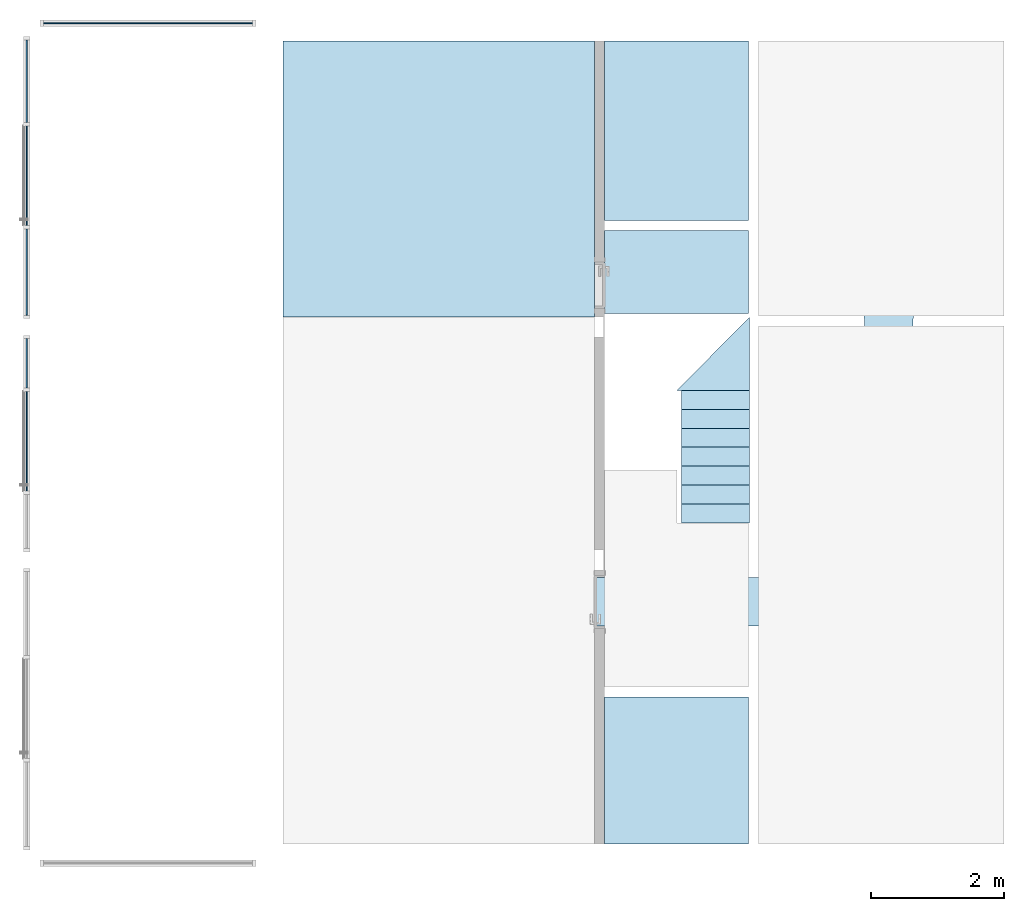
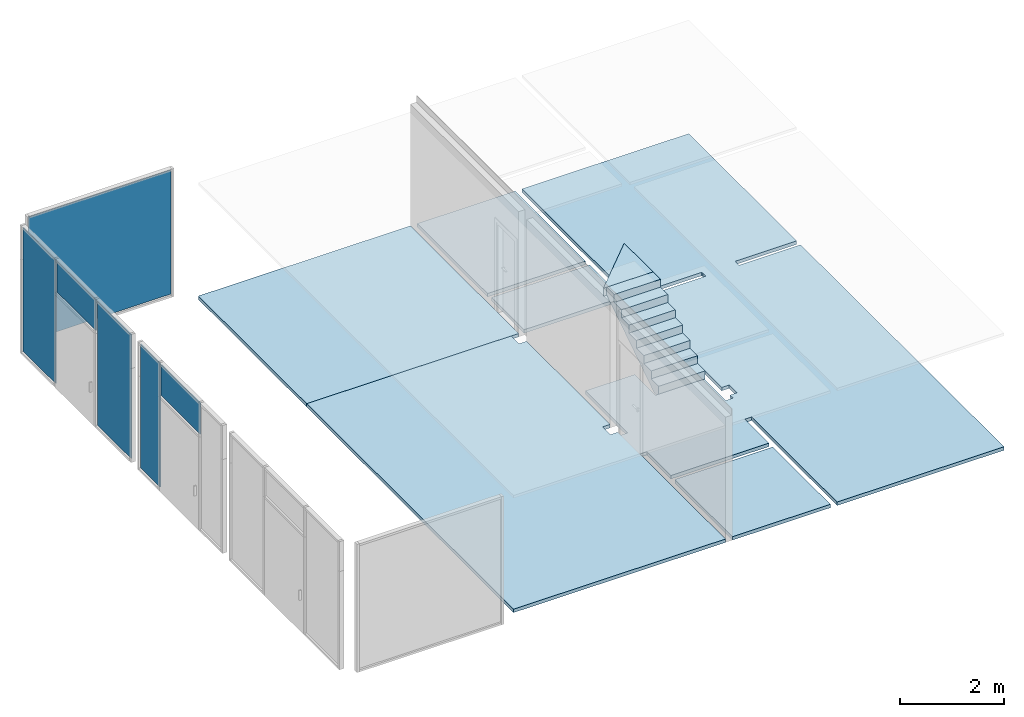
# One storey, part 2 of 4: 7 slabs, 6 plates, 3 elements without a shape of their own.
"""IFC2X3 building model written with IfcOpenShell, lengths in metres."""

from ifc_helpers import new_model, entity, si_unit, converted_unit, derived_unit, direction, frame, frame_2d, origin, origin_2d_with_axis, place, context, subcontext, project, spatial, polyline, rectangle, outline, extrude, source, transform, mapped, material, layer, layer_set, layer_usage, type_object, type_shapes, element, aggregate, save


model = new_model("IFC2X3")

# Units and contexts
model_context = context("Model", 3, precision=1e-05, world=origin(), true_north=direction((6.12303176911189e-17, 1.0)))
context_of_model = context(None, 3, precision=1e-05, world=origin(), true_north=direction((6.12303176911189e-17, 1.0)))
body_context = subcontext(model_context, "Body", "Model", "MODEL_VIEW")
ifc_project = project(units=[si_unit("LENGTHUNIT", "METRE"), si_unit("AREAUNIT", "SQUARE_METRE"), si_unit("VOLUMEUNIT", "CUBIC_METRE"), converted_unit("PLANEANGLEUNIT", "DEGREE", entity("IfcRatioMeasure", 0.0174532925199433), si_unit("PLANEANGLEUNIT", "RADIAN"), dimensions=[0, 0, 0, 0, 0, 0, 0]), si_unit("MASSUNIT", "GRAM", prefix="KILO"), si_unit("TIMEUNIT", "SECOND"), si_unit("FREQUENCYUNIT", "HERTZ"), si_unit("THERMODYNAMICTEMPERATUREUNIT", "DEGREE_CELSIUS"), derived_unit("THERMALTRANSMITTANCEUNIT", [(si_unit("MASSUNIT", "GRAM", prefix="KILO"), 1), (si_unit("THERMODYNAMICTEMPERATUREUNIT", "KELVIN"), -1), (si_unit("TIMEUNIT", "SECOND"), -3)]), derived_unit("VOLUMETRICFLOWRATEUNIT", [(si_unit("LENGTHUNIT", "METRE"), 3), (si_unit("TIMEUNIT", "SECOND"), -1)]), si_unit("ELECTRICCURRENTUNIT", "AMPERE"), si_unit("ELECTRICVOLTAGEUNIT", "VOLT"), si_unit("POWERUNIT", "WATT"), si_unit("FORCEUNIT", "NEWTON", prefix="KILO"), si_unit("ILLUMINANCEUNIT", "LUX"), si_unit("LUMINOUSFLUXUNIT", "LUMEN"), si_unit("LUMINOUSINTENSITYUNIT", "CANDELA"), si_unit("PRESSUREUNIT", "PASCAL")], contexts=[model_context, context_of_model])

# Site, building, storey
site_placement = place(None, origin())
site = spatial("IfcSite", under=ifc_project, at=site_placement, Name="Default", CompositionType="ELEMENT")
building_placement = place(site_placement, origin())
building = spatial("IfcBuilding", under=site, at=building_placement, CompositionType="ELEMENT")
storey_placement = place(building_placement, frame((0.0, 0.0, 0.2)))
storey = spatial("IfcBuildingStorey", under=building, at=storey_placement, Name="01.AR.PLANTA BAJA ACAB.SUELO", CompositionType="ELEMENT", Elevation=0.2)

# Curtain wall, plate
curtain_wall_type = type_object("IfcCurtainWallType", Name="Muro cortina:Muro cortina - simple", PredefinedType="NOTDEFINED")
curtain_wall_1_placement = place(storey_placement, frame((0.0, 0.0, -0.2)))
curtain_wall_1 = element("IfcCurtainWall", 1, at=curtain_wall_1_placement, inside=storey, type_object=curtain_wall_type, Name="Muro cortina:Muro cortina - simple", ObjectType="Muro cortina:Muro cortina - simple")
ifc_material_1 = material(Name="Cristal")
plate_type_1 = type_object("IfcPlateType", Name="Acristalado", PredefinedType="CURTAIN_PANEL", material=ifc_material_1)
shared_shape_1 = source(origin(), body_context, "Body", "SweptSolid", [
    extrude(rectangle(XDim=0.02, YDim=3.14999999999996, at=origin_2d_with_axis()), frame((0.0, 0.0, 0.0), z_axis=(0.0, 0.0, 1.0), x_axis=(0.0, 1.0, 0.0)), (0.0, 0.0, 1.0), 2.9),
])
type_shapes(plate_type_1, [shared_shape_1])
plate_1_placement = place(curtain_wall_1_placement, frame((2.34999999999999, 13.175, 0.25)))
plate_1 = element("IfcPlate", 2, at=plate_1_placement, type_object=plate_type_1, material=ifc_material_1, Name="Panel de sistema:Acristalado", ObjectType="Acristalado", context=body_context, shape_type="MappedRepresentation", body=[
    mapped(shared_shape_1, transform((0.0, 0.0, 0.0), scale=1.0)),
])
aggregate(curtain_wall_1, [plate_1])

# Curtain wall, plates
curtain_wall_2_placement = place(storey_placement, frame((0.0, 0.0, -0.2)))
curtain_wall_2 = element("IfcCurtainWall", 3, at=curtain_wall_2_placement, inside=storey, type_object=curtain_wall_type, Name="Muro cortina:Muro cortina - simple", ObjectType="Muro cortina:Muro cortina - simple")
plate_type_2 = type_object("IfcPlateType", Name="Acristalado", PredefinedType="CURTAIN_PANEL", material=ifc_material_1)
shared_shape_2 = source(origin(), body_context, "Body", "SweptSolid", [
    extrude(rectangle(XDim=2.9, YDim=0.745000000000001, at=frame_2d((-0.233333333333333, 0.0), x_axis=(1.0, 0.0))), frame((0.0, -0.00999999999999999, 1.68333333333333), z_axis=(0.0, 1.0, 0.0), x_axis=(0.0, 0.0, 1.0)), (0.0, 0.0, 1.0), 0.02),
])
type_shapes(plate_type_2, [shared_shape_2])
plate_2_placement = place(curtain_wall_2_placement, frame((0.525000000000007, 8.05250000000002, 0.25), z_axis=(0.0, 0.0, 1.0), x_axis=(0.0, 1.0, 0.0)))
plate_2 = element("IfcPlate", 4, at=plate_2_placement, type_object=plate_type_2, material=ifc_material_1, Name="Panel de sistema:Acristalado", ObjectType="Acristalado", context=body_context, shape_type="MappedRepresentation", body=[
    mapped(shared_shape_2, transform((0.0, 0.0, 0.0), scale=1.0)),
])
plate_type_3 = type_object("IfcPlateType", Name="Acristalado", PredefinedType="CURTAIN_PANEL", material=ifc_material_1)
shared_shape_3 = source(origin(), body_context, "Body", "SweptSolid", [
    extrude(rectangle(XDim=0.02, YDim=1.5, at=origin_2d_with_axis()), frame((0.0, 0.0, 0.0), z_axis=(0.0, 0.0, 1.0), x_axis=(0.0, 1.0, 0.0)), (0.0, 0.0, 1.0), 0.725),
])
type_shapes(plate_type_3, [shared_shape_3])
plate_3_placement = place(curtain_wall_2_placement, frame((0.525000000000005, 6.88000000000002, 2.425), z_axis=(0.0, 0.0, 1.0), x_axis=(0.0, 1.0, 0.0)))
plate_3 = element("IfcPlate", 5, at=plate_3_placement, type_object=plate_type_3, material=ifc_material_1, Name="Panel de sistema:Acristalado", ObjectType="Acristalado", context=body_context, shape_type="MappedRepresentation", body=[
    mapped(shared_shape_3, transform((0.0, 0.0, 0.0), scale=1.0)),
])
aggregate(curtain_wall_2, [plate_2, plate_3])

curtain_wall_3_placement = place(storey_placement, frame((0.0, 0.0, -0.2)))
curtain_wall_3 = element("IfcCurtainWall", 6, at=curtain_wall_3_placement, inside=storey, type_object=curtain_wall_type, Name="Muro cortina:Muro cortina - simple", ObjectType="Muro cortina:Muro cortina - simple")
plate_4_placement = place(curtain_wall_3_placement, frame((0.525000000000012, 10.88, 2.425), z_axis=(0.0, 0.0, 1.0), x_axis=(0.0, 1.0, 0.0)))
plate_4 = element("IfcPlate", 7, at=plate_4_placement, type_object=plate_type_3, material=ifc_material_1, Name="Panel de sistema:Acristalado", ObjectType="Acristalado", context=body_context, shape_type="MappedRepresentation", body=[
    mapped(shared_shape_3, transform((0.0, 0.0, 0.0), scale=1.0)),
])
plate_type_4 = type_object("IfcPlateType", Name="Acristalado", PredefinedType="CURTAIN_PANEL", material=ifc_material_1)
shared_shape_4 = source(origin(), body_context, "Body", "SweptSolid", [
    extrude(rectangle(XDim=2.9, YDim=1.305, at=frame_2d((-0.233333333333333, 0.0), x_axis=(1.0, 0.0))), frame((0.0, -0.00999999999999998, 1.68333333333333), z_axis=(0.0, 1.0, 0.0), x_axis=(0.0, 0.0, 1.0)), (0.0, 0.0, 1.0), 0.02),
])
type_shapes(plate_type_4, [shared_shape_4])
plate_5_placement = place(curtain_wall_3_placement, frame((0.525000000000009, 9.42750000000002, 0.25), z_axis=(0.0, 0.0, 1.0), x_axis=(0.0, 1.0, 0.0)))
plate_5 = element("IfcPlate", 8, at=plate_5_placement, type_object=plate_type_4, material=ifc_material_1, Name="Panel de sistema:Acristalado", ObjectType="Acristalado", context=body_context, shape_type="MappedRepresentation", body=[
    mapped(shared_shape_4, transform((0.0, 0.0, 0.0), scale=1.0)),
])
plate_type_5 = type_object("IfcPlateType", Name="Acristalado", PredefinedType="CURTAIN_PANEL", material=ifc_material_1)
shared_shape_5 = source(origin(), body_context, "Body", "SweptSolid", [
    extrude(rectangle(XDim=2.9, YDim=1.245, at=frame_2d((-0.233333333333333, 0.0), x_axis=(1.0, 0.0))), frame((0.0, -0.01, 1.68333333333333), z_axis=(0.0, 1.0, 0.0), x_axis=(0.0, 0.0, 1.0)), (0.0, 0.0, 1.0), 0.02),
])
type_shapes(plate_type_5, [shared_shape_5])
plate_6_placement = place(curtain_wall_3_placement, frame((0.525000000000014, 12.3025, 0.25), z_axis=(0.0, 0.0, 1.0), x_axis=(0.0, 1.0, 0.0)))
plate_6 = element("IfcPlate", 9, at=plate_6_placement, type_object=plate_type_5, material=ifc_material_1, Name="Panel de sistema:Acristalado", ObjectType="Acristalado", context=body_context, shape_type="MappedRepresentation", body=[
    mapped(shared_shape_5, transform((0.0, 0.0, 0.0), scale=1.0)),
])
aggregate(curtain_wall_3, [plate_5, plate_6, plate_4])

# Slabs
ifc_material_2 = material(Name="Suelos por defecto")
slab_1_placement = place(storey_placement, origin())
element("IfcSlab", 10, at=slab_1_placement, inside=storey, material=ifc_material_2, Name="Losa escalera:Losa escalera", ObjectType="Losa escalera:Losa escalera", PredefinedType="FLOOR", context=body_context, shape_type="SweptSolid", body=[
    extrude(outline(polyline([(0.444574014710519, -1.04601016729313), (0.629774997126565, -1.04601016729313), (0.629774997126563, -0.761444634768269), (0.444774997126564, -0.76144463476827), (0.444774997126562, -0.476569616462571), (0.259693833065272, -0.476569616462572), (0.259693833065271, -0.191569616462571), (0.074693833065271, -0.191569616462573), (0.0746938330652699, 0.0933054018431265), (-0.11030616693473, 0.0933054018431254), (-0.110306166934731, 0.378180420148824), (-0.295306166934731, 0.378180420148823), (-0.295306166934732, 0.663055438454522), (-0.480306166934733, 0.663055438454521), (-0.480306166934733, 0.94793045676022), (-0.745306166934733, 0.947930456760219), (-0.745306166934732, 0.78624463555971), (0.444574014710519, -1.04601016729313)])), frame((10.39, 6.59805543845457, 0.665306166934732), z_axis=(1.0, 0.0, 0.0), x_axis=(0.0, 0.0, 1.0)), (0.0, 0.0, 1.0), 1.02499999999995),
])
slab_2_placement = place(storey_placement, origin())
element("IfcSlab", 11, at=slab_2_placement, inside=storey, material=ifc_material_2, Name="Losa Escalera 2:Losa Escalera 2", ObjectType="Losa Escalera 2:Losa Escalera 2", PredefinedType="FLOOR", context=body_context, shape_type="SweptSolid", body=[
    extrude(outline(polyline([(-0.368644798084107, -0.36697672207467), (0.737289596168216, -0.36697672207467), (-0.368644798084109, 0.733953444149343), (-0.368644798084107, -0.36697672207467)])), frame((11.0480232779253, 8.01271040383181, 1.10988018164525), z_axis=(0.0, 0.0, 1.0), x_axis=(0.0, 1.0, 0.0)), (0.0, 0.0, 1.0), 0.185200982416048),
])
ifc_material_3 = material(Name="Madera - Parquet")
ifc_layer_1 = layer(ifc_material_3, 0.015)
ifc_material_4 = material(Name="Hormigón")
ifc_layer_2 = layer(ifc_material_4, 0.065)
ifc_layer_set_1 = layer_set([ifc_layer_1, ifc_layer_2], Name="Suelo:Acabado de suelo parquet")
ifc_layer_usage_1 = layer_usage(ifc_layer_set_1, "AXIS3", "POSITIVE", 0.0)
slab_3_placement = place(storey_placement, frame((4.38499999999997, 0.815000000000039, -0.08)))
element("IfcSlab", 12, at=slab_3_placement, inside=storey, material=ifc_layer_usage_1, Name="Suelo:Acabado de suelo parquet", ObjectType="Suelo:Acabado de suelo parquet", PredefinedType="FLOOR", context=body_context, shape_type="SweptSolid", body=[
    extrude(rectangle(XDim=2.17000000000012, YDim=2.20999999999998, at=frame_2d((-0.499999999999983, -4.94075886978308), x_axis=(1.0, 0.0))), frame((5.43000000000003, 6.04575886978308, 0.08), z_axis=(0.0, 0.0, -1.0), x_axis=(-1.0, 0.0, 0.0)), (0.0, 0.0, 1.0), 0.08),
])
slab_4_placement = place(storey_placement, frame((4.38499999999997, 0.815000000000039, -0.08)))
element("IfcSlab", 13, at=slab_4_placement, inside=storey, material=ifc_layer_usage_1, Name="Suelo:Acabado de suelo parquet:2", ObjectType="Suelo:Acabado de suelo parquet", PredefinedType="FLOOR", context=body_context, shape_type="SweptSolid", body=[
    extrude(outline(polyline([(0.585000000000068, -3.68575886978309), (0.585000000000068, -2.76575886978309), (0.735000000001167, -2.76575886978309), (0.735000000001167, -6.04575886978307), (5.43000000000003, -6.04575886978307), (5.43000000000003, 1.8892411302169), (0.900000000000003, 1.8892411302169), (0.900000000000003, 1.5892411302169), (0.735000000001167, 1.5892411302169), (0.735000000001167, -1.62069778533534), (0.900000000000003, -1.62069778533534), (0.900000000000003, -1.92069778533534), (0.73500000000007, -1.92069778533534), (0.73500000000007, -2.03575886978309), (0.585000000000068, -2.03575886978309), (0.585000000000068, -0.410758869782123), (-0.505000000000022, -0.410758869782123), (-0.505000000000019, -1.21075886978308), (-1.58500000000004, -1.21075886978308), (-1.58500000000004, -2.03575886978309), (-1.74500000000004, -2.03575886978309), (-1.74500000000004, -1.92069778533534), (-1.89999999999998, -1.92069778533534), (-1.89999999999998, -1.62069778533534), (-1.73500000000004, -1.62069778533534), (-1.73500000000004, 1.5892411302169), (-1.89999999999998, 1.5892411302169), (-1.89999999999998, 1.75424113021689), (-3.33000000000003, 1.75424113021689), (-3.33000000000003, 1.86924113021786), (-3.32000000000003, 1.86924113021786), (-3.32000000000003, 1.90424113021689), (-1.73500000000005, 1.90424113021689), (-1.73500000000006, 6.04575886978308), (-5.43000000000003, 6.04575886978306), (-5.43000000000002, 1.90424113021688), (-4.07000000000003, 1.90424113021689), (-4.07000000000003, 1.86924113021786), (-4.06000000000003, 1.86924113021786), (-4.06000000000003, 1.75424113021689), (-5.43000000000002, 1.75424113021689), (-5.43000000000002, -6.04575886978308), (-1.73500000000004, -6.04575886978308), (-1.73500000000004, -2.76575886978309), (-1.58500000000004, -2.76575886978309), (-1.58500000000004, -3.68575886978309), (0.585000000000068, -3.68575886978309)])), frame((5.43000000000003, 6.04575886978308, 0.08), z_axis=(0.0, 0.0, -1.0), x_axis=(-1.0, 0.0, 0.0)), (0.0, 0.0, 1.0), 0.08),
])
slab_5_placement = place(storey_placement, frame((4.38499999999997, 0.815000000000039, -0.08)))
element("IfcSlab", 14, at=slab_5_placement, inside=storey, material=ifc_layer_usage_1, Name="Suelo:Acabado de suelo parquet:3", ObjectType="Suelo:Acabado de suelo parquet", PredefinedType="FLOOR", context=body_context, shape_type="SweptSolid", body=[
    extrude(rectangle(XDim=1.25, YDim=2.1700000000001, at=frame_2d((-0.499999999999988, 2.56924113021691), x_axis=(0.0, -1.0))), frame((5.43000000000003, 6.04575886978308, 0.08), z_axis=(0.0, 0.0, -1.0), x_axis=(-1.0, 0.0, 0.0)), (0.0, 0.0, 1.0), 0.08),
])
ifc_material_5 = material(Name="Baldosa Cerámica")
ifc_layer_3 = layer(ifc_material_5, 0.015)
ifc_layer_4 = layer(ifc_material_4, 0.065)
ifc_layer_set_2 = layer_set([ifc_layer_3, ifc_layer_4], Name="Suelo:Acabado de suelo gres")
ifc_layer_usage_2 = layer_usage(ifc_layer_set_2, "AXIS3", "POSITIVE", 0.0)
slab_6_placement = place(storey_placement, frame((4.38499999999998, 8.75000000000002, -0.08)))
element("IfcSlab", 15, at=slab_6_placement, inside=storey, material=ifc_layer_usage_2, Name="Suelo:Acabado de suelo gres", ObjectType="Suelo:Acabado de suelo gres", PredefinedType="FLOOR", context=body_context, shape_type="SweptSolid", body=[
    extrude(rectangle(XDim=4.15651773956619, YDim=4.69499999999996, at=frame_2d((1.16000000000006, 0.0), x_axis=(0.0, 1.0))), frame((3.50750000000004, 2.0782588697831, 0.08), z_axis=(0.0, 0.0, -1.0), x_axis=(-1.0, 0.0, 0.0)), (0.0, 0.0, 1.0), 0.08),
])
slab_7_placement = place(storey_placement, frame((4.38499999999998, 8.75000000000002, -0.08)))
element("IfcSlab", 16, at=slab_7_placement, inside=storey, material=ifc_layer_usage_2, Name="Suelo:Acabado de suelo gres:2", ObjectType="Suelo:Acabado de suelo gres", PredefinedType="FLOOR", context=body_context, shape_type="SweptSolid", body=[
    extrude(rectangle(XDim=2.70151773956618, YDim=2.17000000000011, at=frame_2d((-2.42249999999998, 0.727499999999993), x_axis=(0.0, -1.0))), frame((3.50750000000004, 2.0782588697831, 0.08), z_axis=(0.0, 0.0, -1.0), x_axis=(-1.0, 0.0, 0.0)), (0.0, 0.0, 1.0), 0.08),
])

save(model, "model.ifc")
